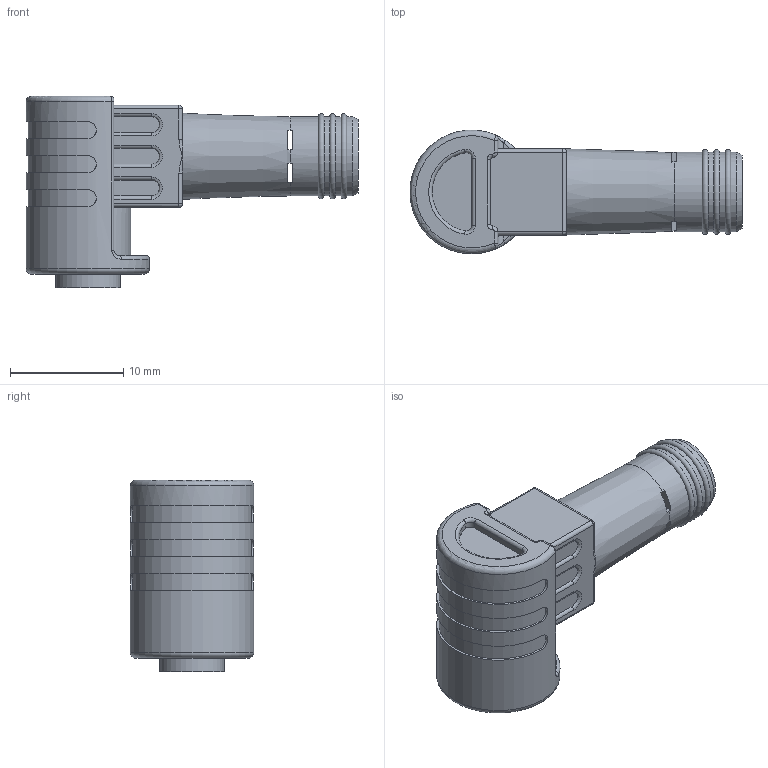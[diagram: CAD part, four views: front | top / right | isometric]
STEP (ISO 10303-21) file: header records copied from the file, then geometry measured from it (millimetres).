
FILE_DESCRIPTION((''),'2;1');
FILE_NAME('C:\TurckZip\PKW_4Z.stp','2010-08-05T11:14:47',('IKOROL'),(''),'Autodesk Inventor 2009','Autodesk Inventor 2009','');
FILE_SCHEMA(('CONFIG_CONTROL_DESIGN'));
Length unit declared in the file: millimetre
Products named in the file (1): Part5
Bounding box: 29.3 x 10.9 x 16.9 mm (x, y, z)
Volume: 1959.5 mm3; surface area: 1915.4 mm2
Topology: 1 solids, 1 shells, 166 faces, 417 edges, 254 vertices
Faces by surface type: cylinder 55, plane 51, bspline 40, torus 12, cone 4, sphere 4
Full cylindrical faces by diameter (mm): 1.6 x4, 5.7 x1, 7 x4, 7.606 x1, 8.4 x1, 10.9 x1
Entity records: 6422 total; most frequent: CARTESIAN_POINT 2534, DIRECTION 768, ORIENTED_EDGE 752, EDGE_CURVE 376, AXIS2_PLACEMENT_3D 313, VERTEX_POINT 242, EDGE_LOOP 202, CIRCLE 186
